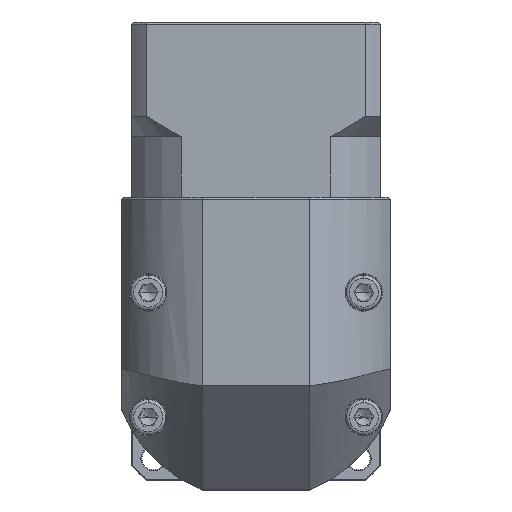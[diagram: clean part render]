
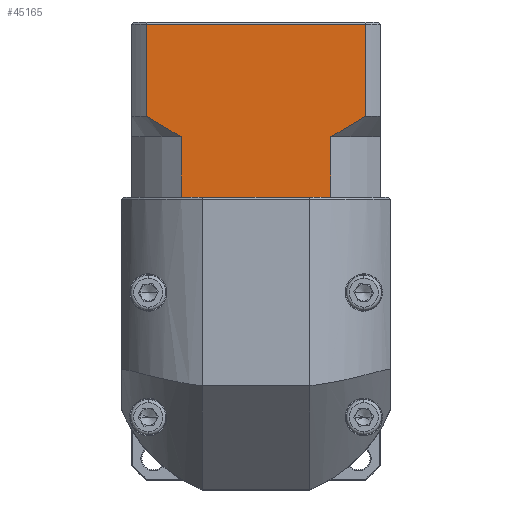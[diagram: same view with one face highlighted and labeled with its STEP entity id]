
A CAD part, top view. The second image highlights one B-rep face of the part: STEP entity #45165.
In plain terms, the highlighted planar face has unit normal (0, 0, 1).
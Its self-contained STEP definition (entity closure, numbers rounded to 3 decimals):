
#560 = ORIENTED_EDGE ( 'NONE', *, *, #104568, .F. ) ;
#4908 = CARTESIAN_POINT ( 'NONE',  ( -62.916, 115.989, 53.895 ) ) ;
#5376 = CARTESIAN_POINT ( 'NONE',  ( -66.459, 101.489, 53.895 ) ) ;
#5674 = VERTEX_POINT ( 'NONE', #57316 ) ;
#6431 = VECTOR ( 'NONE', #35715, 1000. ) ;
#6552 = LINE ( 'NONE', #4908, #106932 ) ;
#6830 = ORIENTED_EDGE ( 'NONE', *, *, #116901, .F. ) ;
#7549 = B_SPLINE_CURVE_WITH_KNOTS ( 'NONE', 3,
 ( #118897, #69293, #59948, #31916, #20843, #60781 ),
 .UNSPECIFIED., .F., .F.,
 ( 4, 2, 4 ),
 ( 0.1, 0.104, 0.109 ),
 .UNSPECIFIED. ) ;
#9625 = CARTESIAN_POINT ( 'NONE',  ( -66.459, 101.489, 53.895 ) ) ;
#12196 = EDGE_CURVE ( 'NONE', #16899, #31773, #6552, .T. ) ;
#13855 = CARTESIAN_POINT ( 'NONE',  ( -66.459, 101.489, 53.895 ) ) ;
#14653 = EDGE_CURVE ( 'NONE', #19532, #45157, #106045, .T. ) ;
#14871 = EDGE_CURVE ( 'NONE', #82186, #19532, #76164, .T. ) ;
#16486 = EDGE_CURVE ( 'NONE', #5674, #121185, #7549, .T. ) ;
#16899 = VERTEX_POINT ( 'NONE', #26684 ) ;
#19532 = VERTEX_POINT ( 'NONE', #68773 ) ;
#20843 = CARTESIAN_POINT ( 'NONE',  ( -11.364, 120.088, 53.895 ) ) ;
#24171 = DIRECTION ( 'NONE',  ( 1., 0., 0. ) ) ;
#26684 = CARTESIAN_POINT ( 'NONE',  ( -62.916, 120.989, 53.895 ) ) ;
#27174 = CARTESIAN_POINT ( 'NONE',  ( -54.487, 115.989, 53.895 ) ) ;
#27839 = VECTOR ( 'NONE', #24171, 1000. ) ;
#31773 = VERTEX_POINT ( 'NONE', #35413 ) ;
#31916 = CARTESIAN_POINT ( 'NONE',  ( -12.744, 119.214, 53.895 ) ) ;
#32306 = EDGE_CURVE ( 'NONE', #115319, #31773, #51096, .T. ) ;
#34579 = EDGE_CURVE ( 'NONE', #16899, #83104, #122959, .T. ) ;
#34715 = ORIENTED_EDGE ( 'NONE', *, *, #16486, .T. ) ;
#35413 = CARTESIAN_POINT ( 'NONE',  ( -62.916, 143.189, 53.895 ) ) ;
#35715 = DIRECTION ( 'NONE',  ( 0., -1., 0. ) ) ;
#36015 = CARTESIAN_POINT ( 'NONE',  ( -62.916, 120.989, 53.895 ) ) ;
#37550 = CARTESIAN_POINT ( 'NONE',  ( -54.487, 101.489, 53.895 ) ) ;
#37773 = DIRECTION ( 'NONE',  ( 1., 0., 0. ) ) ;
#42274 = ORIENTED_EDGE ( 'NONE', *, *, #34579, .T. ) ;
#45157 = VERTEX_POINT ( 'NONE', #53098 ) ;
#45165 = ADVANCED_FACE ( 'NONE', ( #97617 ), #111614, .F. ) ;
#45388 = CARTESIAN_POINT ( 'NONE',  ( -61.556, 120.09, 53.895 ) ) ;
#46331 = EDGE_CURVE ( 'NONE', #72274, #83104, #86625, .T. ) ;
#51096 = LINE ( 'NONE', #61625, #61696 ) ;
#53028 = DIRECTION ( 'NONE',  ( 1., 0., 0. ) ) ;
#53098 = CARTESIAN_POINT ( 'NONE',  ( -18.431, 101.489, 53.895 ) ) ;
#57316 = CARTESIAN_POINT ( 'NONE',  ( -18.431, 115.989, 53.895 ) ) ;
#58419 = CARTESIAN_POINT ( 'NONE',  ( -54.487, 115.989, 53.895 ) ) ;
#58703 = EDGE_LOOP ( 'NONE', ( #560, #98273, #66183, #42274, #80686, #81981, #65317, #65543, #6830, #34715 ) ) ;
#59948 = CARTESIAN_POINT ( 'NONE',  ( -15.549, 117.54, 53.895 ) ) ;
#60781 = CARTESIAN_POINT ( 'NONE',  ( -10.001, 120.989, 53.895 ) ) ;
#61625 = CARTESIAN_POINT ( 'NONE',  ( -66.459, 143.189, 53.895 ) ) ;
#61696 = VECTOR ( 'NONE', #90940, 1000. ) ;
#61988 = DIRECTION ( 'NONE',  ( 0., 0., -1. ) ) ;
#65283 = CARTESIAN_POINT ( 'NONE',  ( -60.178, 119.216, 53.895 ) ) ;
#65317 = ORIENTED_EDGE ( 'NONE', *, *, #14871, .T. ) ;
#65543 = ORIENTED_EDGE ( 'NONE', *, *, #14653, .T. ) ;
#66183 = ORIENTED_EDGE ( 'NONE', *, *, #12196, .F. ) ;
#67011 = DIRECTION ( 'NONE',  ( 0., -1., 0. ) ) ;
#68773 = CARTESIAN_POINT ( 'NONE',  ( -19.422, 101.489, 53.895 ) ) ;
#69138 = CARTESIAN_POINT ( 'NONE',  ( -10.001, 120.989, 53.895 ) ) ;
#69293 = CARTESIAN_POINT ( 'NONE',  ( -16.974, 116.739, 53.895 ) ) ;
#72274 = VERTEX_POINT ( 'NONE', #37550 ) ;
#74017 = CARTESIAN_POINT ( 'NONE',  ( -10.001, 143.189, 53.895 ) ) ;
#74655 = CARTESIAN_POINT ( 'NONE',  ( -54.487, 115.989, 53.895 ) ) ;
#75057 = CARTESIAN_POINT ( 'NONE',  ( -57.37, 117.541, 53.895 ) ) ;
#76164 = LINE ( 'NONE', #13855, #124752 ) ;
#80686 = ORIENTED_EDGE ( 'NONE', *, *, #46331, .F. ) ;
#81981 = ORIENTED_EDGE ( 'NONE', *, *, #116016, .T. ) ;
#82186 = VERTEX_POINT ( 'NONE', #100644 ) ;
#83104 = VERTEX_POINT ( 'NONE', #27174 ) ;
#86625 = LINE ( 'NONE', #58419, #115593 ) ;
#89546 = DIRECTION ( 'NONE',  ( 0., 1., 0. ) ) ;
#89778 = LINE ( 'NONE', #125173, #100380 ) ;
#90940 = DIRECTION ( 'NONE',  ( -1., 0., 0. ) ) ;
#92552 = CARTESIAN_POINT ( 'NONE',  ( -66.459, 143.689, 53.895 ) ) ;
#93354 = CARTESIAN_POINT ( 'NONE',  ( -55.939, 116.737, 53.895 ) ) ;
#97617 = FACE_OUTER_BOUND ( 'NONE', #58703, .T. ) ;
#98273 = ORIENTED_EDGE ( 'NONE', *, *, #32306, .T. ) ;
#99252 = LINE ( 'NONE', #5376, #27839 ) ;
#100380 = VECTOR ( 'NONE', #67011, 1000. ) ;
#100644 = CARTESIAN_POINT ( 'NONE',  ( -53.495, 101.489, 53.895 ) ) ;
#102693 = DIRECTION ( 'NONE',  ( 0., 1., 0. ) ) ;
#103180 = CARTESIAN_POINT ( 'NONE',  ( -10.001, 115.989, 53.895 ) ) ;
#104568 = EDGE_CURVE ( 'NONE', #115319, #121185, #124965, .T. ) ;
#106045 = LINE ( 'NONE', #9625, #125824 ) ;
#106932 = VECTOR ( 'NONE', #89546, 1000. ) ;
#111614 = PLANE ( 'NONE',  #118733 ) ;
#115319 = VERTEX_POINT ( 'NONE', #74017 ) ;
#115593 = VECTOR ( 'NONE', #125919, 1000. ) ;
#116016 = EDGE_CURVE ( 'NONE', #72274, #82186, #99252, .T. ) ;
#116901 = EDGE_CURVE ( 'NONE', #5674, #45157, #89778, .T. ) ;
#118733 = AXIS2_PLACEMENT_3D ( 'NONE', #92552, #61988, #102693 ) ;
#118897 = CARTESIAN_POINT ( 'NONE',  ( -18.431, 115.989, 53.895 ) ) ;
#121185 = VERTEX_POINT ( 'NONE', #69138 ) ;
#122959 = B_SPLINE_CURVE_WITH_KNOTS ( 'NONE', 3,
 ( #36015, #45388, #65283, #75057, #93354, #74655 ),
 .UNSPECIFIED., .F., .F.,
 ( 4, 2, 4 ),
 ( 0.052, 0.057, 0.062 ),
 .UNSPECIFIED. ) ;
#124752 = VECTOR ( 'NONE', #53028, 1000. ) ;
#124965 = LINE ( 'NONE', #103180, #6431 ) ;
#125173 = CARTESIAN_POINT ( 'NONE',  ( -18.431, 115.989, 53.895 ) ) ;
#125824 = VECTOR ( 'NONE', #37773, 1000. ) ;
#125919 = DIRECTION ( 'NONE',  ( 0., 1., 0. ) ) ;
